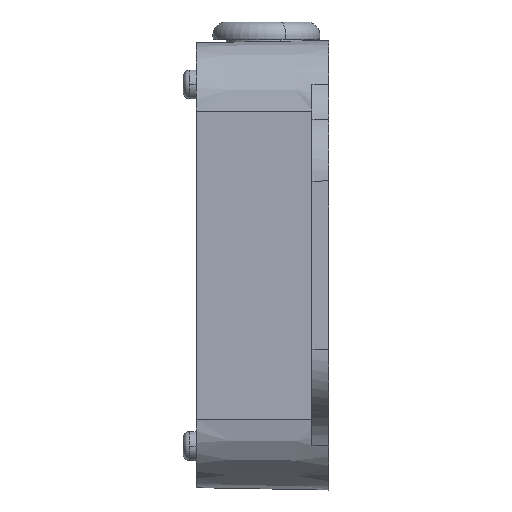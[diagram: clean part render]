
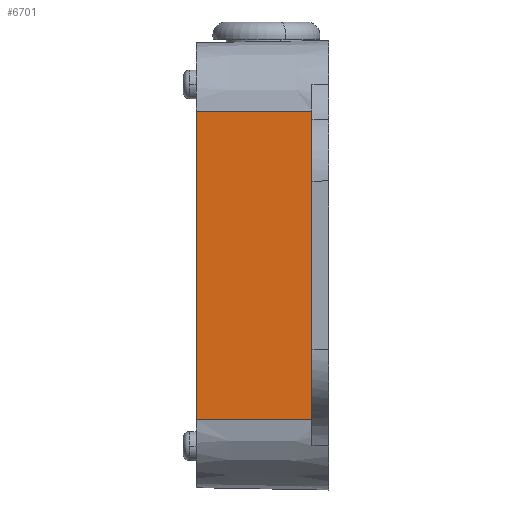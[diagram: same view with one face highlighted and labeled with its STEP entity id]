
A CAD part, left-side view. The second image highlights one B-rep face of the part: STEP entity #6701.
In plain terms, the highlighted planar face has unit normal (-1, 0.018, 0).
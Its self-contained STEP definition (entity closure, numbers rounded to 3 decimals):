
#230 = CARTESIAN_POINT ( 'NONE',  ( -31.019, 0., -27.429 ) ) ;
#1930 = EDGE_CURVE ( 'NONE', #16707, #42319, #36075, .T. ) ;
#6012 = LINE ( 'NONE', #18860, #24988 ) ;
#6701 = ADVANCED_FACE ( 'NONE', ( #31807 ), #60884, .T. ) ;
#8281 = DIRECTION ( 'NONE',  ( -0.017, -1., 0. ) ) ;
#10400 = VECTOR ( 'NONE', #32438, 1000. ) ;
#12469 = EDGE_CURVE ( 'NONE', #16707, #60766, #38488, .T. ) ;
#12756 = VECTOR ( 'NONE', #28733, 1000. ) ;
#12794 = CARTESIAN_POINT ( 'NONE',  ( -31.071, -3., -27.429 ) ) ;
#13585 = DIRECTION ( 'NONE',  ( 0., 0., -1. ) ) ;
#16707 = VERTEX_POINT ( 'NONE', #230 ) ;
#18860 = CARTESIAN_POINT ( 'NONE',  ( -30.659, 20.615, 0. ) ) ;
#19596 = ORIENTED_EDGE ( 'NONE', *, *, #23986, .T. ) ;
#20169 = VECTOR ( 'NONE', #55340, 1000. ) ;
#23986 = EDGE_CURVE ( 'NONE', #60766, #30438, #29286, .T. ) ;
#24988 = VECTOR ( 'NONE', #13585, 1000. ) ;
#26461 = EDGE_LOOP ( 'NONE', ( #55173, #19596, #39487, #48646 ) ) ;
#28733 = DIRECTION ( 'NONE',  ( 0., 0., 1. ) ) ;
#29286 = LINE ( 'NONE', #39875, #20169 ) ;
#30438 = VERTEX_POINT ( 'NONE', #37953 ) ;
#31372 = AXIS2_PLACEMENT_3D ( 'NONE', #32326, #56652, #8281 ) ;
#31807 = FACE_OUTER_BOUND ( 'NONE', #26461, .T. ) ;
#32326 = CARTESIAN_POINT ( 'NONE',  ( -31.071, -3., 0. ) ) ;
#32438 = DIRECTION ( 'NONE',  ( 0.017, 1., 0. ) ) ;
#36075 = LINE ( 'NONE', #12794, #10400 ) ;
#37953 = CARTESIAN_POINT ( 'NONE',  ( -30.659, 20.615, 27.429 ) ) ;
#38488 = LINE ( 'NONE', #43256, #12756 ) ;
#39487 = ORIENTED_EDGE ( 'NONE', *, *, #51207, .T. ) ;
#39875 = CARTESIAN_POINT ( 'NONE',  ( -31.071, -3., 27.429 ) ) ;
#42319 = VERTEX_POINT ( 'NONE', #42872 ) ;
#42872 = CARTESIAN_POINT ( 'NONE',  ( -30.659, 20.615, -27.429 ) ) ;
#43256 = CARTESIAN_POINT ( 'NONE',  ( -31.019, 0., 0. ) ) ;
#48646 = ORIENTED_EDGE ( 'NONE', *, *, #1930, .F. ) ;
#49997 = CARTESIAN_POINT ( 'NONE',  ( -31.019, 0., 27.429 ) ) ;
#51207 = EDGE_CURVE ( 'NONE', #30438, #42319, #6012, .T. ) ;
#55173 = ORIENTED_EDGE ( 'NONE', *, *, #12469, .T. ) ;
#55340 = DIRECTION ( 'NONE',  ( 0.017, 1., 0. ) ) ;
#56652 = DIRECTION ( 'NONE',  ( -1., 0.017, 0. ) ) ;
#60766 = VERTEX_POINT ( 'NONE', #49997 ) ;
#60884 = PLANE ( 'NONE',  #31372 ) ;
